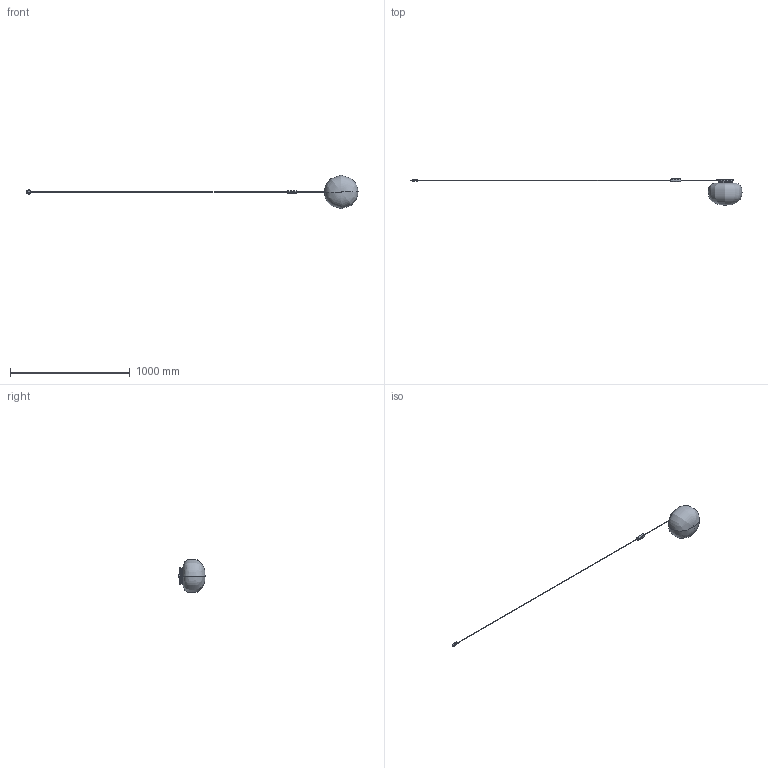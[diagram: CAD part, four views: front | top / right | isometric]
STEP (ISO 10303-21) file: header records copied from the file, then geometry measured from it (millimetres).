
FILE_DESCRIPTION (( 'STEP AP203' ), '1' );
FILE_NAME ('10 54321 FP 2023U010 Supernate Wall 280.STEP', '2023-11-29T07:28:41', ( '' ), ( '' ), 'SwSTEP 2.0', 'SolidWorks 2022', '' );
FILE_SCHEMA (( 'CONFIG_CONTROL_DESIGN' ));
Length unit declared in the file: millimetre
Products named in the file (17): All nuts_380125 M10,1 H3,8; 18 54365 Supernate E27 socket cup Ø45x68 ; All locking washers_38483 Locking washer M10xØ10,5xØ14,5x1,5; EU plug, V3_Without cable; All faceted threaded tube_19 53859 Faceted threaded tube M10x1x35; Plastic holding bracket M70x2,0 with facet, black; Baseplate for Terminal block 3 pole; Cable dummy Ø4,8x2000; 21 54360 Supernate glass shade Ø280; All E27 and E26 sockets_16 51672 E27 socket, black, plain, TP FPL; 70619 In-line dimmerswitch RL7180, black, 4-100W (Bulbs only); 18 54346 Supernate ceiling fitting housing Ø280; Assem5^10 54321 FP 2023U010 Supernate Ceiling 280; Terminal block 3 pole - small; 30 50070 FE strain relief with 2 vulcanized fibre clamps for Ø10 tube; 20 54400 Cable protector, black plastic Ø8xØ6x11; 10 54321 FP 2023U010 Supernate Wall 280
Assembly tree (19 placements, depth 3):
  10 54321 FP 2023U010 Supernate Wall 280
    18 54346 Supernate ceiling fitting housing Ø280
    Assem5^10 54321 FP 2023U010 Supernate Ceiling 280
      21 54360 Supernate glass shade Ø280
      Plastic holding bracket M70x2,0 with facet, black
    18 54365 Supernate E27 socket cup Ø45x68 
    All E27 and E26 sockets_16 51672 E27 socket, black, plain, TP FPL
    All faceted threaded tube_19 53859 Faceted threaded tube M10x1x35
    All nuts_380125 M10,1 H3,8  x2
    30 50070 FE strain relief with 2 vulcanized fibre clamps for Ø10 tube
    All locking washers_38483 Locking washer M10xØ10,5xØ14,5x1,5  x3
    Baseplate for Terminal block 3 pole
    Terminal block 3 pole - small
    Cable dummy Ø4,8x2000
    EU plug, V3_Without cable
    70619 In-line dimmerswitch RL7180, black, 4-100W (Bulbs only)
    20 54400 Cable protector, black plastic Ø8xØ6x11
Bounding box: 2769.41 x 217.84 x 279.88 mm (x, y, z)
Volume: 782852.1 mm3; surface area: 564820.1 mm2
Topology: 63 solids, 63 shells, 1087 faces, 2458 edges, 1509 vertices
Faces by surface type: plane 418, cylinder 360, bspline 186, cone 60, torus 41, sphere 22
Entity records: 31148 total; most frequent: CARTESIAN_POINT 12092, DIRECTION 3580, ORIENTED_EDGE 3540, EDGE_CURVE 1770, AXIS2_PLACEMENT_3D 1420, VERTEX_POINT 1101, EDGE_LOOP 871, FACE_OUTER_BOUND 771
